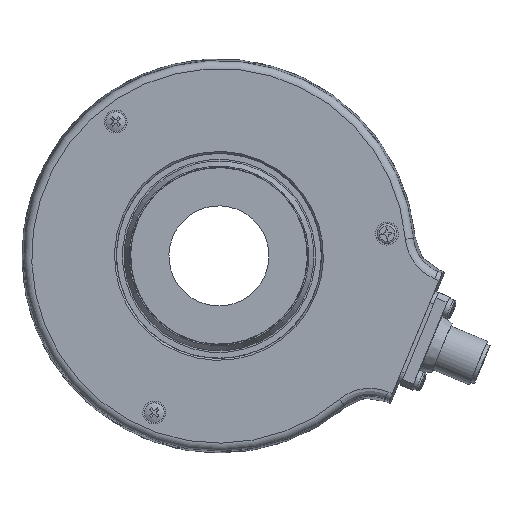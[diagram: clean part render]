
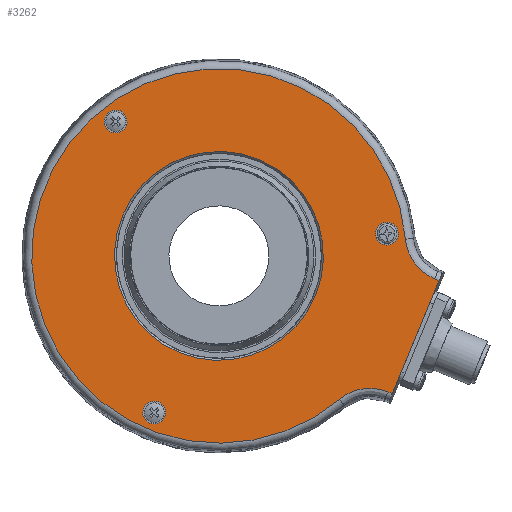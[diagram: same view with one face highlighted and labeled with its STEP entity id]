
A CAD part, left-side view. The second image highlights one B-rep face of the part: STEP entity #3262.
In plain terms, the highlighted planar face has unit normal (-1, 0, 0).
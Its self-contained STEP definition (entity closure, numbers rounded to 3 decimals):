
#502 = DIRECTION ( 'NONE',  ( 1., 0., 0. ) ) ;
#503 = PLANE ( 'NONE',  #2426 ) ;
#505 = CARTESIAN_POINT ( 'NONE',  ( -8.046, 14.594, -7.001 ) ) ;
#507 = DIRECTION ( 'NONE',  ( 0., -0.382, 0.924 ) ) ;
#2426 = AXIS2_PLACEMENT_3D ( 'NONE', #505, #502, #507 ) ;
#3262 = ADVANCED_FACE ( 'NONE', ( #17563, #17559, #17569, #17553, #17572 ), #503, .F. ) ;
#4181 = EDGE_CURVE ( 'NONE', #18942, #19007, #5526, .T. ) ;
#4189 = EDGE_CURVE ( 'NONE', #18775, #18774, #5534, .T. ) ;
#4192 = EDGE_CURVE ( 'NONE', #18781, #18942, #5540, .T. ) ;
#4238 = EDGE_CURVE ( 'NONE', #9776, #9776, #5602, .T. ) ;
#4244 = EDGE_CURVE ( 'NONE', #18773, #18781, #5611, .T. ) ;
#4268 = EDGE_CURVE ( 'NONE', #18774, #18773, #19808, .T. ) ;
#4271 = EDGE_CURVE ( 'NONE', #9786, #9786, #5643, .T. ) ;
#4274 = EDGE_CURVE ( 'NONE', #9788, #9788, #5646, .T. ) ;
#4285 = EDGE_CURVE ( 'NONE', #19007, #18775, #19800, .T. ) ;
#4324 = EDGE_CURVE ( 'NONE', #9799, #9799, #5719, .T. ) ;
#5526 = LINE ( 'NONE', #7222, #5528 ) ;
#5528 = VECTOR ( 'NONE', #7229, 1000. ) ;
#5534 = CIRCLE ( 'NONE', #7862, 47.511 ) ;
#5540 = LINE ( 'NONE', #7252, #5542 ) ;
#5542 = VECTOR ( 'NONE', #7260, 1000. ) ;
#5602 = CIRCLE ( 'NONE', #7885, 2.9 ) ;
#5611 = LINE ( 'NONE', #7451, #5613 ) ;
#5613 = VECTOR ( 'NONE', #7452, 1000. ) ;
#5643 = CIRCLE ( 'NONE', #7899, 2.9 ) ;
#5646 = CIRCLE ( 'NONE', #7901, 2.9 ) ;
#5719 = CIRCLE ( 'NONE', #7919, 26.5 ) ;
#6700 = CARTESIAN_POINT ( 'NONE',  ( -8.046, 56.151, -39.495 ) ) ;
#6718 = CARTESIAN_POINT ( 'NONE',  ( -8.046, -6.878, 8.959 ) ) ;
#6722 = CARTESIAN_POINT ( 'NONE',  ( -8.046, 66.599, 39.316 ) ) ;
#6739 = CARTESIAN_POINT ( 'NONE',  ( -8.046, 28.505, 27.419 ) ) ;
#7222 = CARTESIAN_POINT ( 'NONE',  ( -8.046, -16.047, -2.853 ) ) ;
#7229 = DIRECTION ( 'NONE',  ( 0., 0.924, 0.382 ) ) ;
#7252 = CARTESIAN_POINT ( 'NONE',  ( -8.046, -17.966, -1.519 ) ) ;
#7253 = CARTESIAN_POINT ( 'NONE',  ( -8.046, 38.624, 2.927 ) ) ;
#7254 = DIRECTION ( 'NONE',  ( -1., 0., 0. ) ) ;
#7255 = DIRECTION ( 'NONE',  ( 0., -0.382, 0.924 ) ) ;
#7260 = DIRECTION ( 'NONE',  ( 0., -0.382, 0.924 ) ) ;
#7444 = CARTESIAN_POINT ( 'NONE',  ( -8.046, 55.044, -36.815 ) ) ;
#7445 = DIRECTION ( 'NONE',  ( -1., 0., 0. ) ) ;
#7446 = DIRECTION ( 'NONE',  ( 0., 0.382, -0.924 ) ) ;
#7451 = CARTESIAN_POINT ( 'NONE',  ( -8.046, -5.352, -32.051 ) ) ;
#7452 = DIRECTION ( 'NONE',  ( 0., -0.924, -0.382 ) ) ;
#7523 = CARTESIAN_POINT ( 'NONE',  ( -8.046, 7.247, -32.766 ) ) ;
#7533 = CARTESIAN_POINT ( 'NONE',  ( -8.046, 6.329, -32.19 ) ) ;
#7544 = CARTESIAN_POINT ( 'NONE',  ( -8.046, 8.09, -33.473 ) ) ;
#7545 = CARTESIAN_POINT ( 'NONE',  ( -8.046, 4.841, -31.514 ) ) ;
#7546 = CARTESIAN_POINT ( 'NONE',  ( -8.046, 4.323, -31.321 ) ) ;
#7547 = CARTESIAN_POINT ( 'NONE',  ( -8.046, 3.279, -31.01 ) ) ;
#7548 = CARTESIAN_POINT ( 'NONE',  ( -8.046, 2.75, -30.891 ) ) ;
#7549 = CARTESIAN_POINT ( 'NONE',  ( -8.046, 1.679, -30.725 ) ) ;
#7550 = CARTESIAN_POINT ( 'NONE',  ( -8.046, 1.135, -30.678 ) ) ;
#7551 = CARTESIAN_POINT ( 'NONE',  ( -8.046, 0.037, -30.659 ) ) ;
#7552 = CARTESIAN_POINT ( 'NONE',  ( -8.046, -0.507, -30.687 ) ) ;
#7553 = CARTESIAN_POINT ( 'NONE',  ( -8.046, -1.583, -30.816 ) ) ;
#7554 = CARTESIAN_POINT ( 'NONE',  ( -8.046, -2.116, -30.916 ) ) ;
#7555 = CARTESIAN_POINT ( 'NONE',  ( -8.046, -3.172, -31.191 ) ) ;
#7556 = CARTESIAN_POINT ( 'NONE',  ( -8.046, -3.695, -31.366 ) ) ;
#7557 = CARTESIAN_POINT ( 'NONE',  ( -8.046, -4.203, -31.576 ) ) ;
#7562 = CARTESIAN_POINT ( 'NONE',  ( -8.046, -4.003, 8.578 ) ) ;
#7563 = DIRECTION ( 'NONE',  ( -1., 0., 0. ) ) ;
#7564 = DIRECTION ( 'NONE',  ( 0., -0.991, 0.131 ) ) ;
#7572 = CARTESIAN_POINT ( 'NONE',  ( -8.046, 64.832, 37.017 ) ) ;
#7573 = DIRECTION ( 'NONE',  ( -1., 0., 0. ) ) ;
#7574 = DIRECTION ( 'NONE',  ( 0., 0.609, 0.793 ) ) ;
#7592 = CARTESIAN_POINT ( 'NONE',  ( -8.046, -14.115, -1.894 ) ) ;
#7593 = CARTESIAN_POINT ( 'NONE',  ( -8.046, -15.051, -2.441 ) ) ;
#7599 = CARTESIAN_POINT ( 'NONE',  ( -8.046, -16.067, -2.861 ) ) ;
#7600 = CARTESIAN_POINT ( 'NONE',  ( -8.046, -12.827, -0.887 ) ) ;
#7601 = CARTESIAN_POINT ( 'NONE',  ( -8.046, -12.416, -0.518 ) ) ;
#7602 = CARTESIAN_POINT ( 'NONE',  ( -8.046, -11.658, 0.264 ) ) ;
#7603 = CARTESIAN_POINT ( 'NONE',  ( -8.046, -11.308, 0.678 ) ) ;
#7604 = CARTESIAN_POINT ( 'NONE',  ( -8.046, -10.665, 1.551 ) ) ;
#7605 = CARTESIAN_POINT ( 'NONE',  ( -8.046, -10.371, 2.012 ) ) ;
#7606 = CARTESIAN_POINT ( 'NONE',  ( -8.046, -9.846, 2.976 ) ) ;
#7607 = CARTESIAN_POINT ( 'NONE',  ( -8.046, -9.62, 3.471 ) ) ;
#7608 = CARTESIAN_POINT ( 'NONE',  ( -8.046, -9.236, 4.485 ) ) ;
#7609 = CARTESIAN_POINT ( 'NONE',  ( -8.046, -9.078, 5.004 ) ) ;
#7610 = CARTESIAN_POINT ( 'NONE',  ( -8.046, -8.834, 6.067 ) ) ;
#7611 = CARTESIAN_POINT ( 'NONE',  ( -8.046, -8.747, 6.612 ) ) ;
#7612 = CARTESIAN_POINT ( 'NONE',  ( -8.046, -8.698, 7.159 ) ) ;
#7746 = CARTESIAN_POINT ( 'NONE',  ( -8.046, 38.624, 2.927 ) ) ;
#7747 = DIRECTION ( 'NONE',  ( 1., 0., 0. ) ) ;
#7748 = DIRECTION ( 'NONE',  ( 0., -0.382, 0.924 ) ) ;
#7862 = AXIS2_PLACEMENT_3D ( 'NONE', #7253, #7254, #7255 ) ;
#7885 = AXIS2_PLACEMENT_3D ( 'NONE', #7444, #7445, #7446 ) ;
#7899 = AXIS2_PLACEMENT_3D ( 'NONE', #7562, #7563, #7564 ) ;
#7901 = AXIS2_PLACEMENT_3D ( 'NONE', #7572, #7573, #7574 ) ;
#7919 = AXIS2_PLACEMENT_3D ( 'NONE', #7746, #7747, #7748 ) ;
#9776 = VERTEX_POINT ( 'NONE', #6700 ) ;
#9786 = VERTEX_POINT ( 'NONE', #6718 ) ;
#9788 = VERTEX_POINT ( 'NONE', #6722 ) ;
#9799 = VERTEX_POINT ( 'NONE', #6739 ) ;
#11452 = CARTESIAN_POINT ( 'NONE',  ( -8.046, -4.203, -31.576 ) ) ;
#11453 = CARTESIAN_POINT ( 'NONE',  ( -8.046, 8.09, -33.473 ) ) ;
#11454 = CARTESIAN_POINT ( 'NONE',  ( -8.046, -8.698, 7.159 ) ) ;
#11460 = CARTESIAN_POINT ( 'NONE',  ( -8.046, -5.352, -32.051 ) ) ;
#11639 = CARTESIAN_POINT ( 'NONE',  ( -8.046, -17.216, -3.336 ) ) ;
#11714 = CARTESIAN_POINT ( 'NONE',  ( -8.046, -16.067, -2.861 ) ) ;
#15340 = EDGE_LOOP ( 'NONE', ( #19274 ) ) ;
#17553 = FACE_BOUND ( 'NONE', #17939, .T. ) ;
#17559 = FACE_OUTER_BOUND ( 'NONE', #18051, .T. ) ;
#17563 = FACE_BOUND ( 'NONE', #15340, .T. ) ;
#17569 = FACE_BOUND ( 'NONE', #18416, .T. ) ;
#17572 = FACE_BOUND ( 'NONE', #18124, .T. ) ;
#17939 = EDGE_LOOP ( 'NONE', ( #19534 ) ) ;
#18051 = EDGE_LOOP ( 'NONE', ( #19273, #19576, #19271, #19270, #19272, #19288 ) ) ;
#18124 = EDGE_LOOP ( 'NONE', ( #19442 ) ) ;
#18416 = EDGE_LOOP ( 'NONE', ( #19439 ) ) ;
#18773 = VERTEX_POINT ( 'NONE', #11452 ) ;
#18774 = VERTEX_POINT ( 'NONE', #11453 ) ;
#18775 = VERTEX_POINT ( 'NONE', #11454 ) ;
#18781 = VERTEX_POINT ( 'NONE', #11460 ) ;
#18942 = VERTEX_POINT ( 'NONE', #11639 ) ;
#19007 = VERTEX_POINT ( 'NONE', #11714 ) ;
#19270 = ORIENTED_EDGE ( 'NONE', *, *, #4189, .T. ) ;
#19271 = ORIENTED_EDGE ( 'NONE', *, *, #4285, .T. ) ;
#19272 = ORIENTED_EDGE ( 'NONE', *, *, #4268, .T. ) ;
#19273 = ORIENTED_EDGE ( 'NONE', *, *, #4192, .T. ) ;
#19274 = ORIENTED_EDGE ( 'NONE', *, *, #4324, .T. ) ;
#19288 = ORIENTED_EDGE ( 'NONE', *, *, #4244, .T. ) ;
#19439 = ORIENTED_EDGE ( 'NONE', *, *, #4271, .F. ) ;
#19442 = ORIENTED_EDGE ( 'NONE', *, *, #4238, .F. ) ;
#19534 = ORIENTED_EDGE ( 'NONE', *, *, #4274, .F. ) ;
#19576 = ORIENTED_EDGE ( 'NONE', *, *, #4181, .T. ) ;
#19800 = B_SPLINE_CURVE_WITH_KNOTS ( 'NONE', 3,
 ( #7599, #7593, #7592, #7600, #7601, #7602, #7603, #7604, #7605, #7606, #7607, #7608, #7609, #7610, #7611, #7612 ),
 .UNSPECIFIED., .F., .F.,
 ( 4, 2, 2, 2, 2, 2, 2, 4 ),
 ( 0., 0.003, 0.005, 0.007, 0.008, 0.01, 0.011, 0.013 ),
 .UNSPECIFIED. ) ;
#19808 = B_SPLINE_CURVE_WITH_KNOTS ( 'NONE', 3,
 ( #7544, #7523, #7533, #7545, #7546, #7547, #7548, #7549, #7550, #7551, #7552, #7553, #7554, #7555, #7556, #7557 ),
 .UNSPECIFIED., .F., .F.,
 ( 4, 2, 2, 2, 2, 2, 2, 4 ),
 ( 0., 0.003, 0.005, 0.007, 0.008, 0.01, 0.011, 0.013 ),
 .UNSPECIFIED. ) ;
